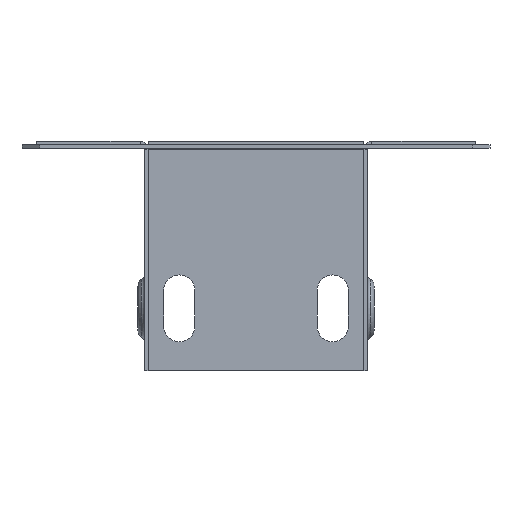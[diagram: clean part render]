
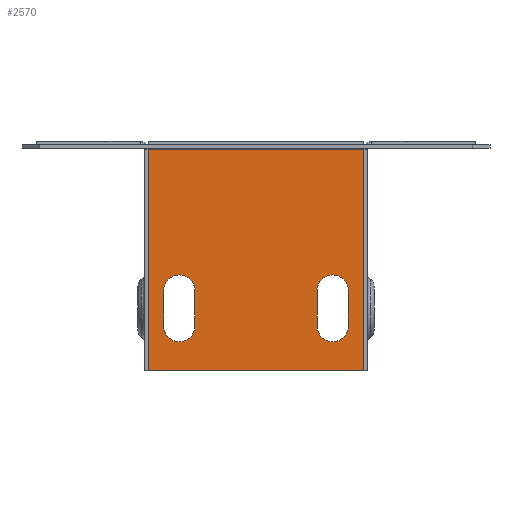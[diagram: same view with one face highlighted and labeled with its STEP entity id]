
A CAD part, left-side view. The second image highlights one B-rep face of the part: STEP entity #2570.
In plain terms, the highlighted planar face has unit normal (-1, 0, 0) as drawn and (0, 1, 0) by its records, which use the part's own axes.
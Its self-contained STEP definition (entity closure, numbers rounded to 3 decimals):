
#41 = EDGE_CURVE ( 'NONE', #240, #1731, #1515, .T. ) ;
#85 = DIRECTION ( 'NONE',  ( -1., 0., 0. ) ) ;
#111 = CIRCLE ( 'NONE', #3229, 3.5 ) ;
#149 = EDGE_CURVE ( 'NONE', #3681, #4513, #5946, .T. ) ;
#240 = VERTEX_POINT ( 'NONE', #2428 ) ;
#247 = CARTESIAN_POINT ( 'NONE',  ( -20.7, 0.8, 41.5 ) ) ;
#280 = EDGE_CURVE ( 'NONE', #4513, #5232, #328, .T. ) ;
#287 = CARTESIAN_POINT ( 'NONE',  ( 24.2, 0.8, 0. ) ) ;
#301 = DIRECTION ( 'NONE',  ( 0., 0., -1. ) ) ;
#328 = CIRCLE ( 'NONE', #4666, 3.5 ) ;
#376 = AXIS2_PLACEMENT_3D ( 'NONE', #516, #378, #301 ) ;
#378 = DIRECTION ( 'NONE',  ( 0., -1., 0. ) ) ;
#396 = EDGE_LOOP ( 'NONE', ( #3190, #754, #4372, #3696, #3326 ) ) ;
#430 = AXIS2_PLACEMENT_3D ( 'NONE', #1885, #5288, #2384 ) ;
#516 = CARTESIAN_POINT ( 'NONE',  ( 24.2, 0.8, 0. ) ) ;
#575 = CARTESIAN_POINT ( 'NONE',  ( 17.2, 0.8, 33.5 ) ) ;
#583 = CARTESIAN_POINT ( 'NONE',  ( -13.7, 0.8, 33.5 ) ) ;
#622 = VECTOR ( 'NONE', #2427, 1000. ) ;
#658 = CARTESIAN_POINT ( 'NONE',  ( -17.2, 0.8, 41.5 ) ) ;
#681 = VERTEX_POINT ( 'NONE', #5720 ) ;
#754 = ORIENTED_EDGE ( 'NONE', *, *, #4776, .F. ) ;
#762 = VERTEX_POINT ( 'NONE', #247 ) ;
#810 = CARTESIAN_POINT ( 'NONE',  ( -17.2, 0.8, 33.5 ) ) ;
#835 = VERTEX_POINT ( 'NONE', #2617 ) ;
#905 = PLANE ( 'NONE',  #376 ) ;
#1050 = DIRECTION ( 'NONE',  ( 0., 0., 1. ) ) ;
#1065 = ORIENTED_EDGE ( 'NONE', *, *, #41, .T. ) ;
#1093 = CARTESIAN_POINT ( 'NONE',  ( -24.2, 0.8, 0. ) ) ;
#1133 = DIRECTION ( 'NONE',  ( 0., 0., 1. ) ) ;
#1158 = DIRECTION ( 'NONE',  ( 0., 0., 1. ) ) ;
#1159 = VERTEX_POINT ( 'NONE', #4168 ) ;
#1253 = CARTESIAN_POINT ( 'NONE',  ( 24.2, 0.8, 1.8 ) ) ;
#1320 = DIRECTION ( 'NONE',  ( 0., 0., 1. ) ) ;
#1371 = VECTOR ( 'NONE', #1158, 1000. ) ;
#1515 = LINE ( 'NONE', #1093, #1371 ) ;
#1532 = DIRECTION ( 'NONE',  ( 0., 0., 1. ) ) ;
#1629 = FACE_BOUND ( 'NONE', #396, .T. ) ;
#1639 = CARTESIAN_POINT ( 'NONE',  ( 13.7, 0.8, 41.5 ) ) ;
#1686 = LINE ( 'NONE', #287, #5421 ) ;
#1731 = VERTEX_POINT ( 'NONE', #3463 ) ;
#1825 = AXIS2_PLACEMENT_3D ( 'NONE', #658, #4028, #1133 ) ;
#1885 = CARTESIAN_POINT ( 'NONE',  ( -17.2, 0.8, 41.5 ) ) ;
#1921 = CARTESIAN_POINT ( 'NONE',  ( 24.2, 0.8, 51.5 ) ) ;
#1925 = CARTESIAN_POINT ( 'NONE',  ( 17.2, 0.8, 41.5 ) ) ;
#2032 = VERTEX_POINT ( 'NONE', #6136 ) ;
#2191 = ORIENTED_EDGE ( 'NONE', *, *, #4812, .T. ) ;
#2369 = ORIENTED_EDGE ( 'NONE', *, *, #3371, .F. ) ;
#2384 = DIRECTION ( 'NONE',  ( 0., 0., 1. ) ) ;
#2403 = DIRECTION ( 'NONE',  ( 0., 0., 1. ) ) ;
#2423 = CIRCLE ( 'NONE', #5996, 3.5 ) ;
#2427 = DIRECTION ( 'NONE',  ( -1., 0., 0. ) ) ;
#2428 = CARTESIAN_POINT ( 'NONE',  ( -24.2, 0.8, 1.8 ) ) ;
#2499 = VECTOR ( 'NONE', #2901, 1000. ) ;
#2530 = ORIENTED_EDGE ( 'NONE', *, *, #4878, .T. ) ;
#2570 = ADVANCED_FACE ( 'NONE', ( #5355, #1629, #3053 ), #905, .F. ) ;
#2617 = CARTESIAN_POINT ( 'NONE',  ( 20.7, 0.8, 33.5 ) ) ;
#2654 = VECTOR ( 'NONE', #4793, 1000. ) ;
#2664 = ORIENTED_EDGE ( 'NONE', *, *, #4583, .T. ) ;
#2721 = VERTEX_POINT ( 'NONE', #4059 ) ;
#2802 = CARTESIAN_POINT ( 'NONE',  ( 17.2, 0.8, 41.5 ) ) ;
#2809 = ORIENTED_EDGE ( 'NONE', *, *, #4728, .T. ) ;
#2810 = DIRECTION ( 'NONE',  ( 0., 1., 0. ) ) ;
#2829 = DIRECTION ( 'NONE',  ( 0., 0., 1. ) ) ;
#2901 = DIRECTION ( 'NONE',  ( 0., 0., 1. ) ) ;
#2934 = CARTESIAN_POINT ( 'NONE',  ( 13.7, 0.8, 33.5 ) ) ;
#2947 = ORIENTED_EDGE ( 'NONE', *, *, #5040, .T. ) ;
#3053 = FACE_BOUND ( 'NONE', #5923, .T. ) ;
#3176 = ORIENTED_EDGE ( 'NONE', *, *, #5501, .T. ) ;
#3190 = ORIENTED_EDGE ( 'NONE', *, *, #3277, .F. ) ;
#3229 = AXIS2_PLACEMENT_3D ( 'NONE', #1925, #5326, #2403 ) ;
#3262 = LINE ( 'NONE', #4817, #5734 ) ;
#3277 = EDGE_CURVE ( 'NONE', #5128, #835, #3262, .T. ) ;
#3326 = ORIENTED_EDGE ( 'NONE', *, *, #4944, .F. ) ;
#3371 = EDGE_CURVE ( 'NONE', #4521, #681, #1686, .T. ) ;
#3389 = CARTESIAN_POINT ( 'NONE',  ( 24.2, 0.8, 1.8 ) ) ;
#3463 = CARTESIAN_POINT ( 'NONE',  ( -24.2, 0.8, 51.5 ) ) ;
#3471 = VECTOR ( 'NONE', #1532, 1000. ) ;
#3663 = CARTESIAN_POINT ( 'NONE',  ( 17.2, 0.8, 45. ) ) ;
#3681 = VERTEX_POINT ( 'NONE', #2934 ) ;
#3696 = ORIENTED_EDGE ( 'NONE', *, *, #149, .F. ) ;
#3891 = EDGE_CURVE ( 'NONE', #681, #1731, #5950, .T. ) ;
#3945 = DIRECTION ( 'NONE',  ( 0., 1., 0. ) ) ;
#3994 = CIRCLE ( 'NONE', #1825, 3.5 ) ;
#4028 = DIRECTION ( 'NONE',  ( 0., -1., 0. ) ) ;
#4059 = CARTESIAN_POINT ( 'NONE',  ( -17.2, 0.8, 45. ) ) ;
#4063 = CARTESIAN_POINT ( 'NONE',  ( 20.7, 0.8, 41.5 ) ) ;
#4078 = LINE ( 'NONE', #4342, #2499 ) ;
#4133 = CARTESIAN_POINT ( 'NONE',  ( 13.7, 0.8, 41.5 ) ) ;
#4168 = CARTESIAN_POINT ( 'NONE',  ( -20.7, 0.8, 33.5 ) ) ;
#4196 = DIRECTION ( 'NONE',  ( 0., -1., 0. ) ) ;
#4297 = CARTESIAN_POINT ( 'NONE',  ( -20.7, 0.8, 41.5 ) ) ;
#4342 = CARTESIAN_POINT ( 'NONE',  ( -13.7, 0.8, 41.5 ) ) ;
#4372 = ORIENTED_EDGE ( 'NONE', *, *, #280, .F. ) ;
#4464 = ORIENTED_EDGE ( 'NONE', *, *, #3891, .F. ) ;
#4513 = VERTEX_POINT ( 'NONE', #4133 ) ;
#4521 = VERTEX_POINT ( 'NONE', #1253 ) ;
#4583 = EDGE_CURVE ( 'NONE', #1159, #5964, #2423, .T. ) ;
#4590 = CIRCLE ( 'NONE', #5204, 3.5 ) ;
#4666 = AXIS2_PLACEMENT_3D ( 'NONE', #2802, #2810, #2829 ) ;
#4728 = EDGE_CURVE ( 'NONE', #762, #1159, #5224, .T. ) ;
#4776 = EDGE_CURVE ( 'NONE', #5232, #5128, #111, .T. ) ;
#4793 = DIRECTION ( 'NONE',  ( 0., 0., -1. ) ) ;
#4800 = DIRECTION ( 'NONE',  ( 0., 0., 1. ) ) ;
#4812 = EDGE_CURVE ( 'NONE', #5964, #2032, #4078, .T. ) ;
#4817 = CARTESIAN_POINT ( 'NONE',  ( 20.7, 0.8, 41.5 ) ) ;
#4878 = EDGE_CURVE ( 'NONE', #4521, #240, #6235, .T. ) ;
#4944 = EDGE_CURVE ( 'NONE', #835, #3681, #4590, .T. ) ;
#5040 = EDGE_CURVE ( 'NONE', #2721, #762, #3994, .T. ) ;
#5128 = VERTEX_POINT ( 'NONE', #4063 ) ;
#5204 = AXIS2_PLACEMENT_3D ( 'NONE', #575, #3945, #1050 ) ;
#5224 = LINE ( 'NONE', #4297, #2654 ) ;
#5232 = VERTEX_POINT ( 'NONE', #3663 ) ;
#5279 = DIRECTION ( 'NONE',  ( 0., 0., -1. ) ) ;
#5288 = DIRECTION ( 'NONE',  ( 0., -1., 0. ) ) ;
#5326 = DIRECTION ( 'NONE',  ( 0., 1., 0. ) ) ;
#5355 = FACE_OUTER_BOUND ( 'NONE', #5955, .T. ) ;
#5421 = VECTOR ( 'NONE', #4800, 1000. ) ;
#5459 = CIRCLE ( 'NONE', #430, 3.5 ) ;
#5501 = EDGE_CURVE ( 'NONE', #2032, #2721, #5459, .T. ) ;
#5720 = CARTESIAN_POINT ( 'NONE',  ( 24.2, 0.8, 51.5 ) ) ;
#5734 = VECTOR ( 'NONE', #5279, 1000. ) ;
#5923 = EDGE_LOOP ( 'NONE', ( #3176, #2947, #2809, #2664, #2191 ) ) ;
#5946 = LINE ( 'NONE', #1639, #3471 ) ;
#5950 = LINE ( 'NONE', #1921, #622 ) ;
#5955 = EDGE_LOOP ( 'NONE', ( #1065, #4464, #2369, #2530 ) ) ;
#5964 = VERTEX_POINT ( 'NONE', #583 ) ;
#5996 = AXIS2_PLACEMENT_3D ( 'NONE', #810, #4196, #1320 ) ;
#6090 = VECTOR ( 'NONE', #85, 1000. ) ;
#6136 = CARTESIAN_POINT ( 'NONE',  ( -13.7, 0.8, 41.5 ) ) ;
#6235 = LINE ( 'NONE', #3389, #6090 ) ;
